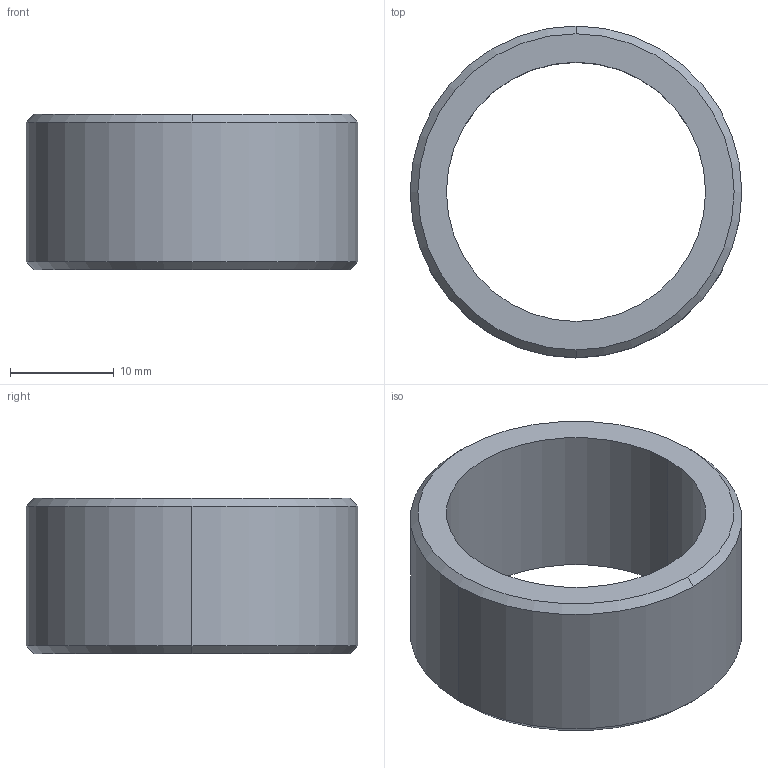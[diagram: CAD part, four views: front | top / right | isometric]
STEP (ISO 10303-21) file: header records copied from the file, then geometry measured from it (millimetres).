
FILE_DESCRIPTION (( 'STEP AP214' ), '1' );
FILE_NAME ('Guide extérieur.STEP', '2005-04-06T20:46:35', ( 'frantz' ), ( '' ), 'SwSTEP 2.0', 'SolidWorks 2004104', '' );
FILE_SCHEMA (( 'AUTOMOTIVE_DESIGN' ));
Length unit declared in the file: centimetre
Products named in the file (1): Guide extérieur
Bounding box: 32 x 32 x 15 mm (x, y, z)
Volume: 4644.9 mm3; surface area: 3223 mm2
Topology: 1 solids, 1 shells, 10 faces, 22 edges, 14 vertices
Faces by surface type: cone 4, cylinder 4, plane 2
Entity records: 311 total; most frequent: DIRECTION 58, CARTESIAN_POINT 47, ORIENTED_EDGE 44, AXIS2_PLACEMENT_3D 25, EDGE_CURVE 22, VERTEX_POINT 14, CIRCLE 14, EDGE_LOOP 12
